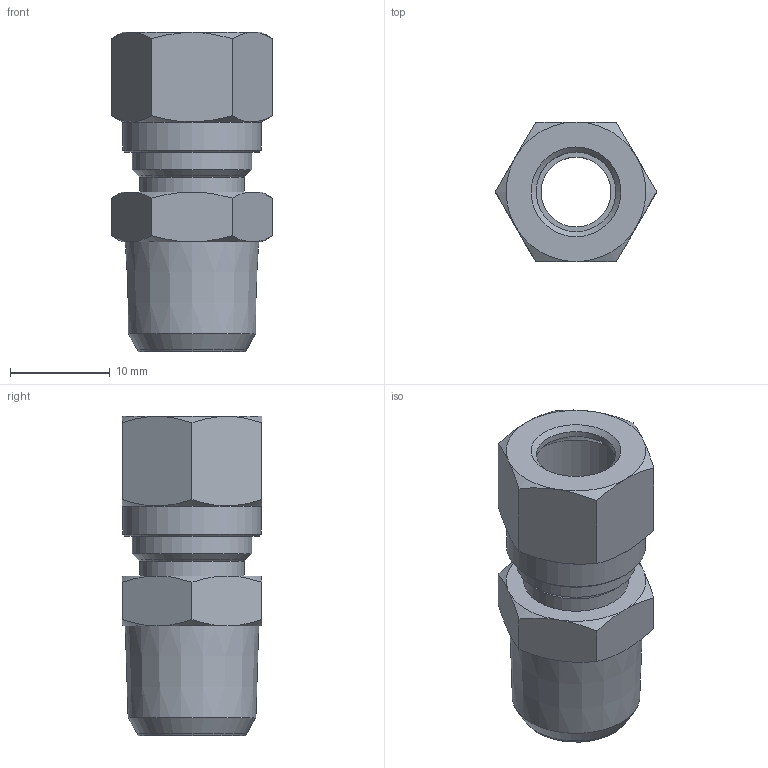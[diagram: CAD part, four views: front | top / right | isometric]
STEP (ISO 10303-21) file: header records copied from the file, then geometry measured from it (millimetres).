
FILE_DESCRIPTION(('Bauteilbeschreibung','HiCAD-Model','HiCAD-STEP-TRANSLATION','Bauteilbeschreibung'),'2;1');
FILE_NAME('B:/ABGLEICH/ZEICHNUNGEN/STEP FÜR INTERNET/STEP/201/94805_201_8_1-4.STP','2011-11-09T15:20:12+00:00',('Konstrukteur'),('Konstrukteur Firma GmbH'),' HiCAD neXt 2008, Step 3.1.1401.2J ','HiCAD neXt 2008','confidential');
FILE_SCHEMA(('AUTOMOTIVE_DESIGN { 1 2 10303 214 0 1 1 1 }'));
Length unit declared in the file: millimetre
Products named in the file (8): A4805_201_8_1_4; A4805; A48050; R 1_4; DIN 13_M12X1; A6803_12MM ; A6803012MM0; DIN0130M12X1
Assembly tree (7 placements, depth 3):
  A4805_201_8_1_4
    A4805
    A48050
      R 1_4
      DIN 13_M12X1
    A6803_12MM 
    A6803012MM0
      DIN0130M12X1
Bounding box: 16.17 x 14 x 32 mm (x, y, z)
Volume: 2912.6 mm3; surface area: 4967.1 mm2
Topology: 5 solids, 5 shells, 70 faces, 162 edges, 103 vertices
Faces by surface type: cone 35, plane 23, cylinder 12
Full cylindrical faces by diameter (mm): 7 x1, 8 x3, 10.5 x1, 10.773 x3, 12 x3, 13.9 x1
Entity records: 2535 total; most frequent: CARTESIAN_POINT 382, DIRECTION 304, ORIENTED_EDGE 244, AXIS2_PLACEMENT_3D 140, COLOUR_RGB 127, PRESENTATION_STYLE_ASSIGNMENT 127, CURVE_STYLE 122, DRAUGHTING_PRE_DEFINED_CURVE_FONT 122
